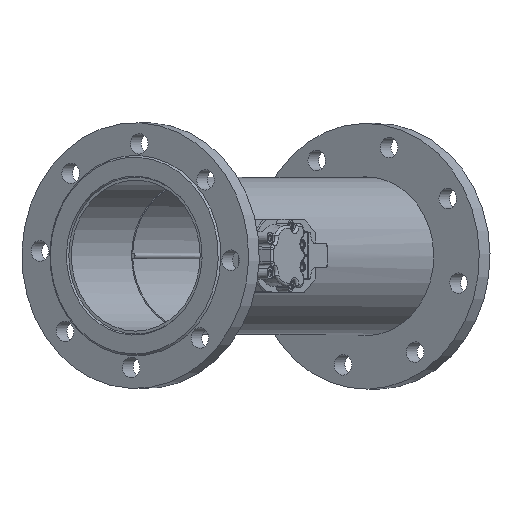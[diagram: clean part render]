
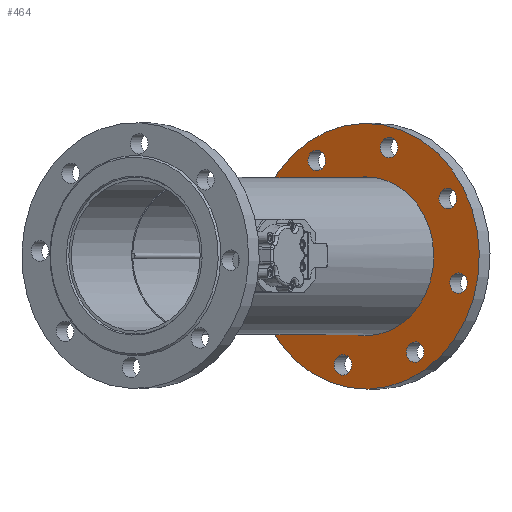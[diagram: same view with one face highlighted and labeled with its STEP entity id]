
A CAD part, top view. The second image highlights one B-rep face of the part: STEP entity #464.
In plain terms, the highlighted planar face has unit normal (-0.522, 0, 0.853) as drawn and (0, 0, -1) by its records, which use the part's own axes.
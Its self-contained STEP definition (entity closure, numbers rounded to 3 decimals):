
#464 = ADVANCED_FACE( '', ( #1072, #1073, #1074, #1075, #1076, #1077, #1078, #1079, #1080, #1081 ), #1082, .T. );
#1072 = FACE_BOUND( '', #1984, .T. );
#1073 = FACE_BOUND( '', #1985, .T. );
#1074 = FACE_BOUND( '', #1986, .T. );
#1075 = FACE_BOUND( '', #1987, .T. );
#1076 = FACE_BOUND( '', #1988, .T. );
#1077 = FACE_BOUND( '', #1989, .T. );
#1078 = FACE_BOUND( '', #1990, .T. );
#1079 = FACE_BOUND( '', #1991, .T. );
#1080 = FACE_BOUND( '', #1992, .T. );
#1081 = FACE_OUTER_BOUND( '', #1993, .T. );
#1082 = PLANE( '', #1994 );
#1984 = EDGE_LOOP( '', ( #5935 ) );
#1985 = EDGE_LOOP( '', ( #5936 ) );
#1986 = EDGE_LOOP( '', ( #5937 ) );
#1987 = EDGE_LOOP( '', ( #5938 ) );
#1988 = EDGE_LOOP( '', ( #5939 ) );
#1989 = EDGE_LOOP( '', ( #5940 ) );
#1990 = EDGE_LOOP( '', ( #5941 ) );
#1991 = EDGE_LOOP( '', ( #5942 ) );
#1992 = EDGE_LOOP( '', ( #5943 ) );
#1993 = EDGE_LOOP( '', ( #5944 ) );
#1994 = AXIS2_PLACEMENT_3D( '', #5945, #5946, #5947 );
#5935 = ORIENTED_EDGE( '', *, *, #7999, .F. );
#5936 = ORIENTED_EDGE( '', *, *, #8000, .F. );
#5937 = ORIENTED_EDGE( '', *, *, #8001, .F. );
#5938 = ORIENTED_EDGE( '', *, *, #8002, .F. );
#5939 = ORIENTED_EDGE( '', *, *, #8003, .F. );
#5940 = ORIENTED_EDGE( '', *, *, #8004, .F. );
#5941 = ORIENTED_EDGE( '', *, *, #8005, .F. );
#5942 = ORIENTED_EDGE( '', *, *, #8006, .F. );
#5943 = ORIENTED_EDGE( '', *, *, #8007, .T. );
#5944 = ORIENTED_EDGE( '', *, *, #8008, .F. );
#5945 = CARTESIAN_POINT( '', ( 85.25, 0., -8.141 ) );
#5946 = DIRECTION( '', ( 0., 0., -1. ) );
#5947 = DIRECTION( '', ( -1., 0., 0. ) );
#7999 = EDGE_CURVE( '', #8818, #8818, #8819, .T. );
#8000 = EDGE_CURVE( '', #8820, #8820, #8821, .T. );
#8001 = EDGE_CURVE( '', #8822, #8822, #8823, .T. );
#8002 = EDGE_CURVE( '', #8824, #8824, #8825, .T. );
#8003 = EDGE_CURVE( '', #8826, #8826, #8827, .T. );
#8004 = EDGE_CURVE( '', #8828, #8828, #8829, .T. );
#8005 = EDGE_CURVE( '', #8830, #8830, #8831, .T. );
#8006 = EDGE_CURVE( '', #8832, #8832, #8833, .T. );
#8007 = EDGE_CURVE( '', #8834, #8834, #8835, .T. );
#8008 = EDGE_CURVE( '', #8836, #8836, #8837, .T. );
#8818 = VERTEX_POINT( '', #9997 );
#8819 = CIRCLE( '', #9998, 11. );
#8820 = VERTEX_POINT( '', #9999 );
#8821 = CIRCLE( '', #10000, 11. );
#8822 = VERTEX_POINT( '', #10001 );
#8823 = CIRCLE( '', #10002, 11. );
#8824 = VERTEX_POINT( '', #10003 );
#8825 = CIRCLE( '', #10004, 11. );
#8826 = VERTEX_POINT( '', #10005 );
#8827 = CIRCLE( '', #10006, 11. );
#8828 = VERTEX_POINT( '', #10007 );
#8829 = CIRCLE( '', #10008, 11. );
#8830 = VERTEX_POINT( '', #10009 );
#8831 = CIRCLE( '', #10010, 11. );
#8832 = VERTEX_POINT( '', #10011 );
#8833 = CIRCLE( '', #10012, 11. );
#8834 = VERTEX_POINT( '', #10013 );
#8835 = CIRCLE( '', #10014, 85.25 );
#8836 = VERTEX_POINT( '', #10015 );
#8837 = CIRCLE( '', #10016, 142.5 );
#9997 = CARTESIAN_POINT( '', ( -131., 0., -8.141 ) );
#9998 = AXIS2_PLACEMENT_3D( '', #12690, #12691, #12692 );
#9999 = CARTESIAN_POINT( '', ( -95.853, -84.853, -8.141 ) );
#10000 = AXIS2_PLACEMENT_3D( '', #12693, #12694, #12695 );
#10001 = CARTESIAN_POINT( '', ( -11., -120., -8.141 ) );
#10002 = AXIS2_PLACEMENT_3D( '', #12696, #12697, #12698 );
#10003 = CARTESIAN_POINT( '', ( 73.853, -84.853, -8.141 ) );
#10004 = AXIS2_PLACEMENT_3D( '', #12699, #12700, #12701 );
#10005 = CARTESIAN_POINT( '', ( 109., 0., -8.141 ) );
#10006 = AXIS2_PLACEMENT_3D( '', #12702, #12703, #12704 );
#10007 = CARTESIAN_POINT( '', ( 73.853, 84.853, -8.141 ) );
#10008 = AXIS2_PLACEMENT_3D( '', #12705, #12706, #12707 );
#10009 = CARTESIAN_POINT( '', ( -11., 120., -8.141 ) );
#10010 = AXIS2_PLACEMENT_3D( '', #12708, #12709, #12710 );
#10011 = CARTESIAN_POINT( '', ( -95.853, 84.853, -8.141 ) );
#10012 = AXIS2_PLACEMENT_3D( '', #12711, #12712, #12713 );
#10013 = CARTESIAN_POINT( '', ( 85.25, 0., -8.141 ) );
#10014 = AXIS2_PLACEMENT_3D( '', #12714, #12715, #12716 );
#10015 = CARTESIAN_POINT( '', ( 142.5, 0., -8.141 ) );
#10016 = AXIS2_PLACEMENT_3D( '', #12717, #12718, #12719 );
#12690 = CARTESIAN_POINT( '', ( -120., 0., -8.141 ) );
#12691 = DIRECTION( '', ( 0., 0., -1. ) );
#12692 = DIRECTION( '', ( -1., 0., 0. ) );
#12693 = CARTESIAN_POINT( '', ( -84.853, -84.853, -8.141 ) );
#12694 = DIRECTION( '', ( 0., 0., -1. ) );
#12695 = DIRECTION( '', ( -1., 0., 0. ) );
#12696 = CARTESIAN_POINT( '', ( 0., -120., -8.141 ) );
#12697 = DIRECTION( '', ( 0., 0., -1. ) );
#12698 = DIRECTION( '', ( -1., 0., 0. ) );
#12699 = CARTESIAN_POINT( '', ( 84.853, -84.853, -8.141 ) );
#12700 = DIRECTION( '', ( 0., 0., -1. ) );
#12701 = DIRECTION( '', ( -1., 0., 0. ) );
#12702 = CARTESIAN_POINT( '', ( 120., 0., -8.141 ) );
#12703 = DIRECTION( '', ( 0., 0., -1. ) );
#12704 = DIRECTION( '', ( -1., 0., 0. ) );
#12705 = CARTESIAN_POINT( '', ( 84.853, 84.853, -8.141 ) );
#12706 = DIRECTION( '', ( 0., 0., -1. ) );
#12707 = DIRECTION( '', ( -1., 0., 0. ) );
#12708 = CARTESIAN_POINT( '', ( 0., 120., -8.141 ) );
#12709 = DIRECTION( '', ( 0., 0., -1. ) );
#12710 = DIRECTION( '', ( -1., 0., 0. ) );
#12711 = CARTESIAN_POINT( '', ( -84.853, 84.853, -8.141 ) );
#12712 = DIRECTION( '', ( 0., 0., -1. ) );
#12713 = DIRECTION( '', ( -1., 0., 0. ) );
#12714 = CARTESIAN_POINT( '', ( 0., 0., -8.141 ) );
#12715 = DIRECTION( '', ( 0., 0., 1. ) );
#12716 = DIRECTION( '', ( 1., 0., 0. ) );
#12717 = CARTESIAN_POINT( '', ( 0., 0., -8.141 ) );
#12718 = DIRECTION( '', ( 0., 0., 1. ) );
#12719 = DIRECTION( '', ( 1., 0., 0. ) );
